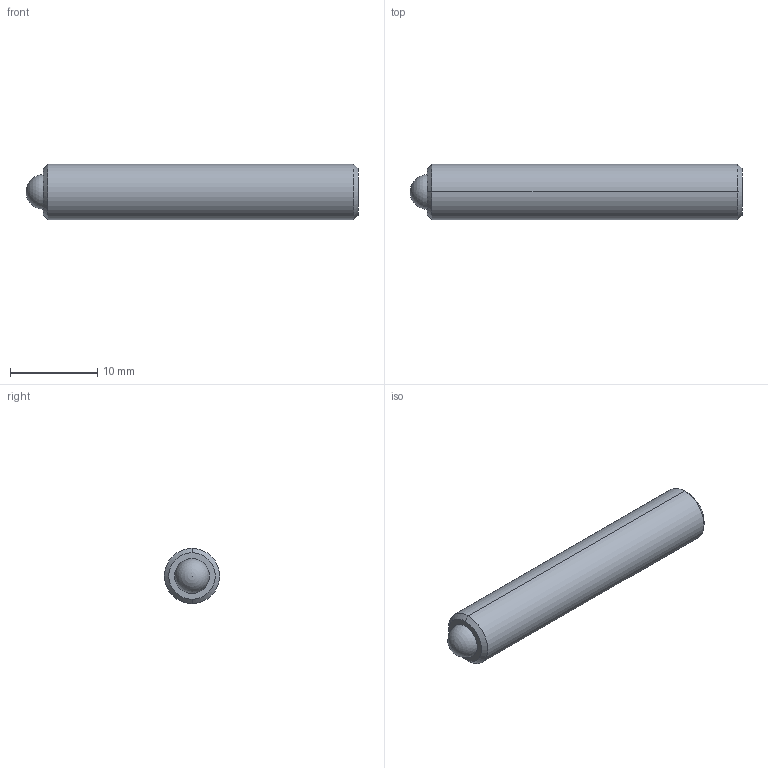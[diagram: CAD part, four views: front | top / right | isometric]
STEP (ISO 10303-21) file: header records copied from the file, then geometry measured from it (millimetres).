
FILE_DESCRIPTION (( 'STEP AP214' ), '1' );
FILE_NAME ('TS250-100-1500.STEP', '2013-02-11T23:18:25', ( 'workpc' ), ( 'Microsoft' ), 'SwSTEP 2.0', 'SolidWorks 2013', '' );
FILE_SCHEMA (( 'AUTOMOTIVE_DESIGN' ));
Length unit declared in the file: inch
Products named in the file (1): TS250-100-1500
Bounding box: 38.1 x 6.35 x 6.35 mm (x, y, z)
Volume: 1135.9 mm3; surface area: 864.3 mm2
Topology: 2 solids, 2 shells, 20 faces, 45 edges, 29 vertices
Faces by surface type: plane 10, cylinder 4, cone 4, sphere 2
Entity records: 599 total; most frequent: DIRECTION 96, CARTESIAN_POINT 87, ORIENTED_EDGE 80, EDGE_CURVE 40, AXIS2_PLACEMENT_3D 35, VERTEX_POINT 26, LINE 26, VECTOR 26
